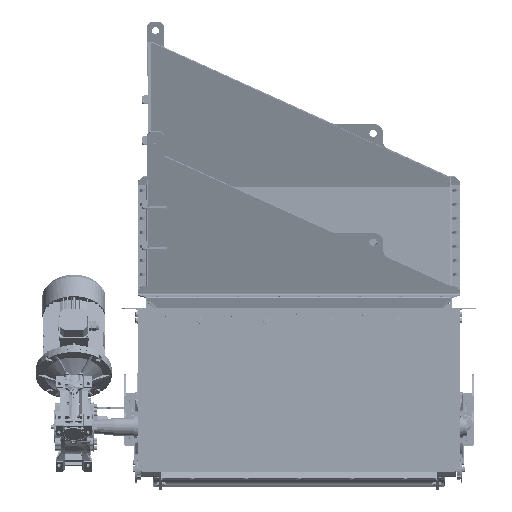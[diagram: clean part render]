
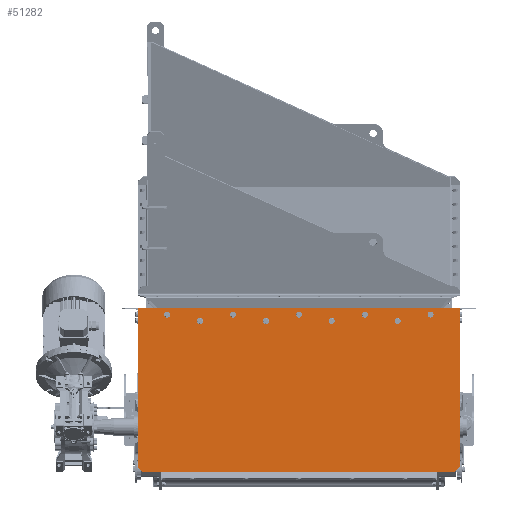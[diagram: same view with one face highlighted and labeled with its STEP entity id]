
A CAD part, top view. The second image highlights one B-rep face of the part: STEP entity #51282.
In plain terms, the highlighted planar face has unit normal (0, 0, 1).
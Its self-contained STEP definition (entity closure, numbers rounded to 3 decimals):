
#17297=FACE_BOUND('',#68244,.T.);
#17298=FACE_BOUND('',#68245,.T.);
#17299=FACE_BOUND('',#68246,.T.);
#17300=FACE_BOUND('',#68247,.T.);
#17301=FACE_BOUND('',#68248,.T.);
#17302=FACE_BOUND('',#68249,.T.);
#17303=FACE_BOUND('',#68250,.T.);
#17304=FACE_BOUND('',#68251,.T.);
#17305=FACE_BOUND('',#68252,.T.);
#17306=FACE_BOUND('',#68253,.T.);
#46292=PLANE('',#173784);
#51282=ADVANCED_FACE('N',(#17297,#17298,#17299,#17300,#17301,#17302,#17303,
#17304,#17305,#17306),#46292,.T.);
#68244=EDGE_LOOP('',(#108008,#108009,#108010,#108011,#108012,#108013));
#68245=EDGE_LOOP('',(#108014,#108015));
#68246=EDGE_LOOP('',(#108016,#108017));
#68247=EDGE_LOOP('',(#108018,#108019));
#68248=EDGE_LOOP('',(#108020,#108021));
#68249=EDGE_LOOP('',(#108022,#108023));
#68250=EDGE_LOOP('',(#108024,#108025));
#68251=EDGE_LOOP('',(#108026,#108027));
#68252=EDGE_LOOP('',(#108028,#108029));
#68253=EDGE_LOOP('',(#108030,#108031));
#76435=LINE('',#257245,#86897);
#76437=LINE('',#257249,#86899);
#76439=LINE('',#257253,#86901);
#76441=LINE('',#257257,#86903);
#76443=LINE('',#257261,#86905);
#76445=LINE('',#257265,#86907);
#86897=VECTOR('',#196158,1.);
#86899=VECTOR('',#196162,1.);
#86901=VECTOR('',#196166,1.);
#86903=VECTOR('',#196170,1.);
#86905=VECTOR('',#196174,1.);
#86907=VECTOR('',#196178,1.);
#108008=ORIENTED_EDGE('',*,*,#151298,.F.);
#108009=ORIENTED_EDGE('',*,*,#151296,.F.);
#108010=ORIENTED_EDGE('',*,*,#151294,.F.);
#108011=ORIENTED_EDGE('',*,*,#151292,.T.);
#108012=ORIENTED_EDGE('',*,*,#151290,.F.);
#108013=ORIENTED_EDGE('',*,*,#151300,.T.);
#108014=ORIENTED_EDGE('',*,*,#151240,.T.);
#108015=ORIENTED_EDGE('',*,*,#151301,.T.);
#108016=ORIENTED_EDGE('',*,*,#151244,.T.);
#108017=ORIENTED_EDGE('',*,*,#151302,.T.);
#108018=ORIENTED_EDGE('',*,*,#151248,.T.);
#108019=ORIENTED_EDGE('',*,*,#151303,.T.);
#108020=ORIENTED_EDGE('',*,*,#151252,.T.);
#108021=ORIENTED_EDGE('',*,*,#151304,.T.);
#108022=ORIENTED_EDGE('',*,*,#151256,.T.);
#108023=ORIENTED_EDGE('',*,*,#151305,.T.);
#108024=ORIENTED_EDGE('',*,*,#151260,.T.);
#108025=ORIENTED_EDGE('',*,*,#151306,.T.);
#108026=ORIENTED_EDGE('',*,*,#151264,.T.);
#108027=ORIENTED_EDGE('',*,*,#151307,.T.);
#108028=ORIENTED_EDGE('',*,*,#151268,.T.);
#108029=ORIENTED_EDGE('',*,*,#151308,.T.);
#108030=ORIENTED_EDGE('',*,*,#151272,.T.);
#108031=ORIENTED_EDGE('',*,*,#151309,.T.);
#136312=VERTEX_POINT('',#257144);
#136313=VERTEX_POINT('',#257146);
#136316=VERTEX_POINT('',#257153);
#136317=VERTEX_POINT('',#257155);
#136320=VERTEX_POINT('',#257162);
#136321=VERTEX_POINT('',#257164);
#136324=VERTEX_POINT('',#257171);
#136325=VERTEX_POINT('',#257173);
#136328=VERTEX_POINT('',#257180);
#136329=VERTEX_POINT('',#257182);
#136332=VERTEX_POINT('',#257189);
#136333=VERTEX_POINT('',#257191);
#136336=VERTEX_POINT('',#257198);
#136337=VERTEX_POINT('',#257200);
#136340=VERTEX_POINT('',#257207);
#136341=VERTEX_POINT('',#257209);
#136344=VERTEX_POINT('',#257216);
#136345=VERTEX_POINT('',#257218);
#136352=VERTEX_POINT('',#257244);
#136353=VERTEX_POINT('',#257246);
#136354=VERTEX_POINT('',#257250);
#136355=VERTEX_POINT('',#257254);
#136356=VERTEX_POINT('',#257258);
#136357=VERTEX_POINT('',#257262);
#151240=EDGE_CURVE('',#136313,#136312,#165020,.T.);
#151244=EDGE_CURVE('',#136317,#136316,#165022,.T.);
#151248=EDGE_CURVE('',#136321,#136320,#165024,.T.);
#151252=EDGE_CURVE('',#136325,#136324,#165026,.T.);
#151256=EDGE_CURVE('',#136329,#136328,#165028,.T.);
#151260=EDGE_CURVE('',#136333,#136332,#165030,.T.);
#151264=EDGE_CURVE('',#136337,#136336,#165032,.T.);
#151268=EDGE_CURVE('',#136341,#136340,#165034,.T.);
#151272=EDGE_CURVE('',#136345,#136344,#165036,.T.);
#151290=EDGE_CURVE('',#136352,#136353,#76435,.T.);
#151292=EDGE_CURVE('',#136354,#136353,#76437,.T.);
#151294=EDGE_CURVE('',#136354,#136355,#76439,.T.);
#151296=EDGE_CURVE('',#136355,#136356,#76441,.T.);
#151298=EDGE_CURVE('',#136356,#136357,#76443,.T.);
#151300=EDGE_CURVE('',#136352,#136357,#76445,.T.);
#151301=EDGE_CURVE('',#136312,#136313,#165046,.T.);
#151302=EDGE_CURVE('',#136316,#136317,#165047,.T.);
#151303=EDGE_CURVE('',#136320,#136321,#165048,.T.);
#151304=EDGE_CURVE('',#136324,#136325,#165049,.T.);
#151305=EDGE_CURVE('',#136328,#136329,#165050,.T.);
#151306=EDGE_CURVE('',#136332,#136333,#165051,.T.);
#151307=EDGE_CURVE('',#136336,#136337,#165052,.T.);
#151308=EDGE_CURVE('',#136340,#136341,#165053,.T.);
#151309=EDGE_CURVE('',#136344,#136345,#165054,.T.);
#165020=CIRCLE('',#173724,7.);
#165022=CIRCLE('',#173727,7.);
#165024=CIRCLE('',#173730,7.);
#165026=CIRCLE('',#173733,7.);
#165028=CIRCLE('',#173736,7.);
#165030=CIRCLE('',#173739,7.);
#165032=CIRCLE('',#173742,7.);
#165034=CIRCLE('',#173745,7.);
#165036=CIRCLE('',#173748,7.);
#165046=CIRCLE('',#173766,7.);
#165047=CIRCLE('',#173768,7.);
#165048=CIRCLE('',#173770,7.);
#165049=CIRCLE('',#173772,7.);
#165050=CIRCLE('',#173774,7.);
#165051=CIRCLE('',#173776,7.);
#165052=CIRCLE('',#173778,7.);
#165053=CIRCLE('',#173780,7.);
#165054=CIRCLE('',#173782,7.);
#173724=AXIS2_PLACEMENT_3D('',#257145,#196062,#196063);
#173727=AXIS2_PLACEMENT_3D('',#257154,#196070,#196071);
#173730=AXIS2_PLACEMENT_3D('',#257163,#196078,#196079);
#173733=AXIS2_PLACEMENT_3D('',#257172,#196086,#196087);
#173736=AXIS2_PLACEMENT_3D('',#257181,#196094,#196095);
#173739=AXIS2_PLACEMENT_3D('',#257190,#196102,#196103);
#173742=AXIS2_PLACEMENT_3D('',#257199,#196110,#196111);
#173745=AXIS2_PLACEMENT_3D('',#257208,#196118,#196119);
#173748=AXIS2_PLACEMENT_3D('',#257217,#196126,#196127);
#173766=AXIS2_PLACEMENT_3D('',#257267,#196181,#196182);
#173768=AXIS2_PLACEMENT_3D('',#257269,#196185,#196186);
#173770=AXIS2_PLACEMENT_3D('',#257271,#196189,#196190);
#173772=AXIS2_PLACEMENT_3D('',#257273,#196193,#196194);
#173774=AXIS2_PLACEMENT_3D('',#257275,#196197,#196198);
#173776=AXIS2_PLACEMENT_3D('',#257277,#196201,#196202);
#173778=AXIS2_PLACEMENT_3D('',#257279,#196205,#196206);
#173780=AXIS2_PLACEMENT_3D('',#257281,#196209,#196210);
#173782=AXIS2_PLACEMENT_3D('',#257283,#196213,#196214);
#173784=AXIS2_PLACEMENT_3D('',#257285,#196217,#196218);
#196062=DIRECTION('',(0.,0.,-1.));
#196063=DIRECTION('',(1.,0.,0.));
#196070=DIRECTION('',(0.,0.,-1.));
#196071=DIRECTION('',(1.,0.,0.));
#196078=DIRECTION('',(0.,0.,-1.));
#196079=DIRECTION('',(1.,0.,0.));
#196086=DIRECTION('',(0.,0.,-1.));
#196087=DIRECTION('',(1.,0.,0.));
#196094=DIRECTION('',(0.,0.,-1.));
#196095=DIRECTION('',(1.,0.,0.));
#196102=DIRECTION('',(0.,0.,-1.));
#196103=DIRECTION('',(1.,0.,0.));
#196110=DIRECTION('',(0.,0.,-1.));
#196111=DIRECTION('',(1.,0.,0.));
#196118=DIRECTION('',(0.,0.,-1.));
#196119=DIRECTION('',(1.,0.,0.));
#196126=DIRECTION('',(0.,0.,-1.));
#196127=DIRECTION('',(1.,0.,0.));
#196158=DIRECTION('',(-1.,0.,0.));
#196162=DIRECTION('',(0.707,-0.707,0.));
#196166=DIRECTION('',(0.,1.,0.));
#196170=DIRECTION('',(1.,0.,0.));
#196174=DIRECTION('',(0.,-1.,0.));
#196178=DIRECTION('',(0.707,0.707,0.));
#196181=DIRECTION('',(0.,0.,-1.));
#196182=DIRECTION('',(1.,0.,0.));
#196185=DIRECTION('',(0.,0.,-1.));
#196186=DIRECTION('',(1.,0.,0.));
#196189=DIRECTION('',(0.,0.,-1.));
#196190=DIRECTION('',(1.,0.,0.));
#196193=DIRECTION('',(0.,0.,-1.));
#196194=DIRECTION('',(1.,0.,0.));
#196197=DIRECTION('',(0.,0.,-1.));
#196198=DIRECTION('',(1.,0.,0.));
#196201=DIRECTION('',(0.,0.,-1.));
#196202=DIRECTION('',(1.,0.,0.));
#196205=DIRECTION('',(0.,0.,-1.));
#196206=DIRECTION('',(1.,0.,0.));
#196209=DIRECTION('',(0.,0.,-1.));
#196210=DIRECTION('',(1.,0.,0.));
#196213=DIRECTION('',(0.,0.,-1.));
#196214=DIRECTION('',(1.,0.,0.));
#196217=DIRECTION('',(0.,0.,1.));
#196218=DIRECTION('',(-1.,0.,0.));
#257144=CARTESIAN_POINT('',(383.,272.,0.));
#257145=CARTESIAN_POINT('',(390.,272.,0.));
#257146=CARTESIAN_POINT('',(397.,272.,0.));
#257153=CARTESIAN_POINT('',(253.,297.,0.));
#257154=CARTESIAN_POINT('',(260.,297.,0.));
#257155=CARTESIAN_POINT('',(267.,297.,0.));
#257162=CARTESIAN_POINT('',(-7.,297.,0.));
#257163=CARTESIAN_POINT('',(0.,297.,0.));
#257164=CARTESIAN_POINT('',(7.,297.,0.));
#257171=CARTESIAN_POINT('',(-267.,297.,0.));
#257172=CARTESIAN_POINT('',(-260.,297.,0.));
#257173=CARTESIAN_POINT('',(-253.,297.,0.));
#257180=CARTESIAN_POINT('',(-397.,272.,0.));
#257181=CARTESIAN_POINT('',(-390.,272.,0.));
#257182=CARTESIAN_POINT('',(-383.,272.,0.));
#257189=CARTESIAN_POINT('',(-137.,272.,0.));
#257190=CARTESIAN_POINT('',(-130.,272.,0.));
#257191=CARTESIAN_POINT('',(-123.,272.,0.));
#257198=CARTESIAN_POINT('',(123.,272.,0.));
#257199=CARTESIAN_POINT('',(130.,272.,0.));
#257200=CARTESIAN_POINT('',(137.,272.,0.));
#257207=CARTESIAN_POINT('',(-527.,297.,0.));
#257208=CARTESIAN_POINT('',(-520.,297.,0.));
#257209=CARTESIAN_POINT('',(-513.,297.,0.));
#257216=CARTESIAN_POINT('',(513.,297.,0.));
#257217=CARTESIAN_POINT('',(520.,297.,0.));
#257218=CARTESIAN_POINT('',(527.,297.,0.));
#257244=CARTESIAN_POINT('',(615.,-325.,0.));
#257245=CARTESIAN_POINT('',(-635.,-325.,0.));
#257246=CARTESIAN_POINT('',(-615.,-325.,0.));
#257249=CARTESIAN_POINT('',(-635.,-305.,0.));
#257250=CARTESIAN_POINT('',(-635.,-305.,0.));
#257253=CARTESIAN_POINT('',(-635.,325.,0.));
#257254=CARTESIAN_POINT('',(-635.,325.,0.));
#257257=CARTESIAN_POINT('',(-635.,325.,0.));
#257258=CARTESIAN_POINT('',(635.,325.,0.));
#257261=CARTESIAN_POINT('',(635.,325.,0.));
#257262=CARTESIAN_POINT('',(635.,-305.,0.));
#257265=CARTESIAN_POINT('',(615.,-325.,0.));
#257267=CARTESIAN_POINT('',(390.,272.,0.));
#257269=CARTESIAN_POINT('',(260.,297.,0.));
#257271=CARTESIAN_POINT('',(0.,297.,0.));
#257273=CARTESIAN_POINT('',(-260.,297.,0.));
#257275=CARTESIAN_POINT('',(-390.,272.,0.));
#257277=CARTESIAN_POINT('',(-130.,272.,0.));
#257279=CARTESIAN_POINT('',(130.,272.,0.));
#257281=CARTESIAN_POINT('',(-520.,297.,0.));
#257283=CARTESIAN_POINT('',(520.,297.,0.));
#257285=CARTESIAN_POINT('',(0.,0.,0.));
